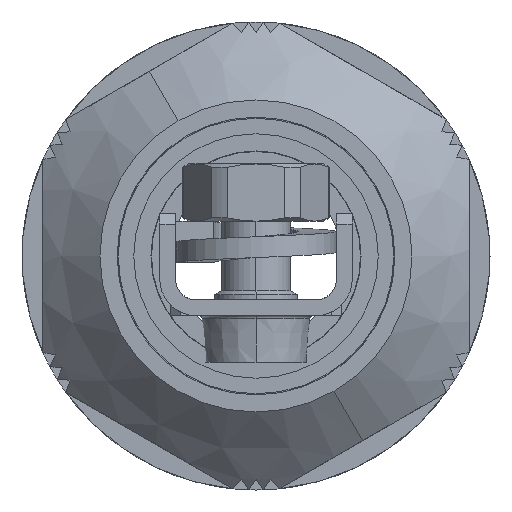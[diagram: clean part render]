
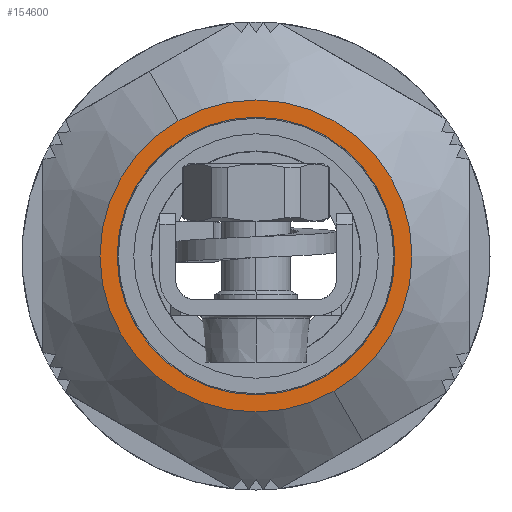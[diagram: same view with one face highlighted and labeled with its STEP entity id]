
A CAD part, left-side view. The second image highlights one B-rep face of the part: STEP entity #154600.
In plain terms, the highlighted planar face has unit normal (-1, 0, 0) as drawn and (0, 0, -1) by its records, which use the part's own axes.
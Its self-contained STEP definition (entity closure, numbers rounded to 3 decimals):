
#148840=CARTESIAN_POINT('',(12.99,-7.5,
-106.838));
#148850=VERTEX_POINT('',#148840);
#154210=CARTESIAN_POINT('',(-12.99,7.5,-106.838));
#154220=VERTEX_POINT('',#154210);
#154250=CARTESIAN_POINT('',(0.,0.,
-106.838));
#154260=DIRECTION('',(0.,0.,1.));
#154270=DIRECTION('',(-0.866,0.5,0.));
#154280=AXIS2_PLACEMENT_3D('',#154250,#154260,#154270);
#154290=CIRCLE('',#154280,15.);
#154300=EDGE_CURVE('',#148850,#154220,#154290,.T.);
#154350=CARTESIAN_POINT('',(0.,0.,-106.838))
;
#154360=DIRECTION('',(0.,0.,-1.));
#154370=DIRECTION('',(1.,0.,0.));
#154380=AXIS2_PLACEMENT_3D('',#154350,#154360,#154370);
#154390=PLANE('',#154380);
#154400=EDGE_CURVE('',#154220,#148850,#154290,.T.);
#154410=ORIENTED_EDGE('',*,*,#154400,.F.);
#154420=ORIENTED_EDGE('',*,*,#154300,.F.);
#154430=EDGE_LOOP('',(#154420,#154410));
#154440=FACE_OUTER_BOUND('',#154430,.T.);
#154450=CARTESIAN_POINT('',(0.,0.,
-106.838));
#154460=DIRECTION('',(0.,0.,-1.));
#154470=DIRECTION('',(0.866,-0.5,0.));
#154480=AXIS2_PLACEMENT_3D('',#154450,#154460,#154470);
#154490=CIRCLE('',#154480,13.35);
#154500=CARTESIAN_POINT('',(-11.561,6.675,-106.838));
#154510=VERTEX_POINT('',#154500);
#154520=CARTESIAN_POINT('',(11.561,-6.675,-106.838));
#154530=VERTEX_POINT('',#154520);
#154540=EDGE_CURVE('',#154510,#154530,#154490,.T.);
#154550=ORIENTED_EDGE('',*,*,#154540,.F.);
#154560=EDGE_CURVE('',#154530,#154510,#154490,.T.);
#154570=ORIENTED_EDGE('',*,*,#154560,.F.);
#154580=EDGE_LOOP('',(#154570,#154550));
#154590=FACE_BOUND('',#154580,.T.);
#154600=ADVANCED_FACE('',(#154440,#154590),#154390,.T.);
